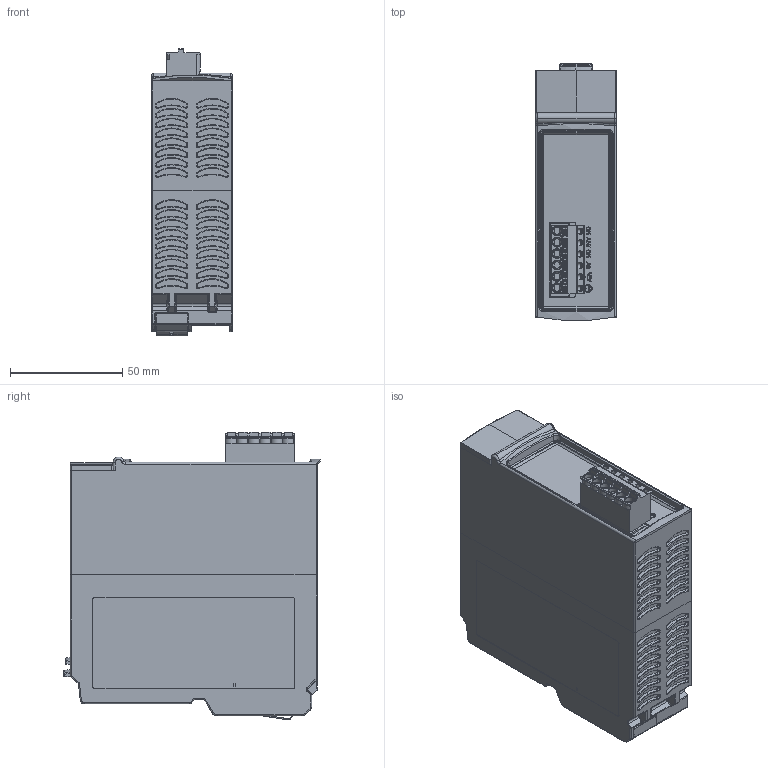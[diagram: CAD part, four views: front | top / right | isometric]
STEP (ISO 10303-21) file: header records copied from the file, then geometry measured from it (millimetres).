
FILE_DESCRIPTION (( 'STEP AP214' ), '1' );
FILE_NAME ('NX8000_20130708.STEP', '2013-07-08T19:39:29', ( 'ALTUS' ), ( '' ), 'SwSTEP 2.0', 'SolidWorks 2011', '' );
FILE_SCHEMA (( 'AUTOMOTIVE_DESIGN' ));
Length unit declared in the file: millimetre
Products named in the file (1): NX8000_20130708
Bounding box: 36 x 114.46 x 128.2 mm (x, y, z)
Volume: 416125.4 mm3; surface area: 76251.7 mm2
Topology: 12 solids, 14 shells, 2810 faces, 7027 edges, 4373 vertices
Faces by surface type: plane 1129, bspline 691, cylinder 516, cone 234, torus 230, sphere 10
Entity records: 126981 total; most frequent: CARTESIAN_POINT 34432, ORIENTED_EDGE 14016, DIRECTION 11207, EDGE_CURVE 7008, VERTEX_POINT 4371, AXIS2_PLACEMENT_3D 4034, LINE 3139, VECTOR 3139
